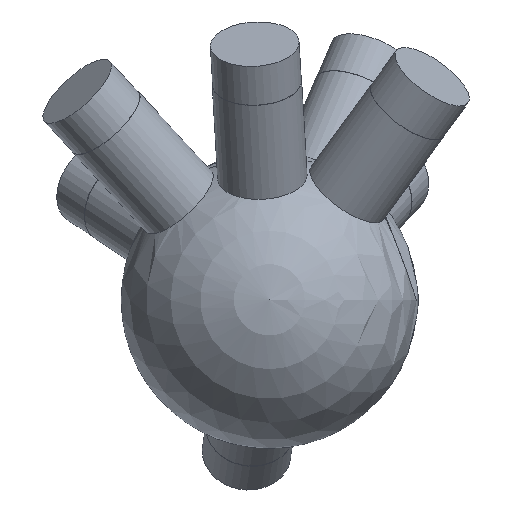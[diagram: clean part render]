
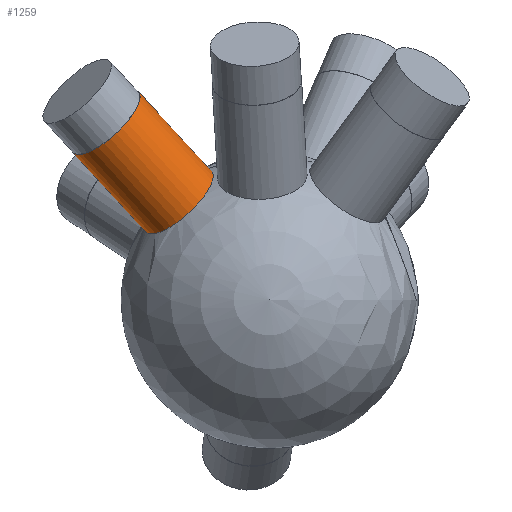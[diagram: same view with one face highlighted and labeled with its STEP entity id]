
A CAD part, top view. The second image highlights one B-rep face of the part: STEP entity #1259.
In plain terms, the highlighted cylindrical face has radius 6 mm (diameter 12 mm), a full revolution.
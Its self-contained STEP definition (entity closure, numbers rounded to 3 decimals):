
#37 = SPHERICAL_SURFACE('',#38,20.);
#38 = AXIS2_PLACEMENT_3D('',#39,#40,#41);
#39 = CARTESIAN_POINT('',(0.,0.,0.));
#40 = DIRECTION('',(0.,0.,1.));
#41 = DIRECTION('',(1.,0.,-0.));
#772 = EDGE_CURVE('',#773,#773,#775,.T.);
#773 = VERTEX_POINT('',#774);
#774 = CARTESIAN_POINT('',(-7.742,17.253,
    6.512));
#775 = SURFACE_CURVE('',#776,(#781,#843),.PCURVE_S1.);
#776 = CIRCLE('',#777,6.);
#777 = AXIS2_PLACEMENT_3D('',#778,#779,#780);
#778 = CARTESIAN_POINT('',(-12.154,13.186,
    6.512));
#779 = DIRECTION('',(-0.637,0.691,0.341));
#780 = DIRECTION('',(-0.735,-0.678,0.)
  );
#781 = PCURVE('',#37,#782);
#782 = DEFINITIONAL_REPRESENTATION('',(#783),#842);
#783 = B_SPLINE_CURVE_WITH_KNOTS('',8,(#784,#785,#786,#787,#788,#789,
    #790,#791,#792,#793,#794,#795,#796,#797,#798,#799,#800,#801,#802,
    #803,#804,#805,#806,#807,#808,#809,#810,#811,#812,#813,#814,#815,
    #816,#817,#818,#819,#820,#821,#822,#823,#824,#825,#826,#827,#828,
    #829,#830,#831,#832,#833,#834,#835,#836,#837,#838,#839,#840,#841),
  .UNSPECIFIED.,.T.,.F.,(9,7,7,7,7,7,7,7,9),(3.142,
    3.927,4.614,5.817,6.719,
    7.395,7.903,8.664,9.425),
  .UNSPECIFIED.);
#784 = CARTESIAN_POINT('',(1.993,0.332));
#785 = CARTESIAN_POINT('',(1.996,0.302));
#786 = CARTESIAN_POINT('',(2.003,0.273));
#787 = CARTESIAN_POINT('',(2.012,0.245));
#788 = CARTESIAN_POINT('',(2.025,0.218));
#789 = CARTESIAN_POINT('',(2.04,0.192));
#790 = CARTESIAN_POINT('',(2.058,0.168));
#791 = CARTESIAN_POINT('',(2.078,0.146));
#792 = CARTESIAN_POINT('',(2.119,0.109));
#793 = CARTESIAN_POINT('',(2.14,0.094));
#794 = CARTESIAN_POINT('',(2.162,0.08));
#795 = CARTESIAN_POINT('',(2.186,0.069));
#796 = CARTESIAN_POINT('',(2.21,0.059));
#797 = CARTESIAN_POINT('',(2.235,0.052));
#798 = CARTESIAN_POINT('',(2.26,0.047));
#799 = CARTESIAN_POINT('',(2.331,0.041));
#800 = CARTESIAN_POINT('',(2.377,0.044));
#801 = CARTESIAN_POINT('',(2.422,0.054));
#802 = CARTESIAN_POINT('',(2.464,0.072));
#803 = CARTESIAN_POINT('',(2.504,0.096));
#804 = CARTESIAN_POINT('',(2.539,0.127));
#805 = CARTESIAN_POINT('',(2.569,0.161));
#806 = CARTESIAN_POINT('',(2.61,0.229));
#807 = CARTESIAN_POINT('',(2.625,0.26));
#808 = CARTESIAN_POINT('',(2.635,0.293));
#809 = CARTESIAN_POINT('',(2.642,0.327));
#810 = CARTESIAN_POINT('',(2.644,0.361));
#811 = CARTESIAN_POINT('',(2.642,0.395));
#812 = CARTESIAN_POINT('',(2.636,0.429));
#813 = CARTESIAN_POINT('',(2.615,0.485));
#814 = CARTESIAN_POINT('',(2.604,0.508));
#815 = CARTESIAN_POINT('',(2.59,0.531));
#816 = CARTESIAN_POINT('',(2.573,0.552));
#817 = CARTESIAN_POINT('',(2.553,0.571));
#818 = CARTESIAN_POINT('',(2.531,0.589));
#819 = CARTESIAN_POINT('',(2.506,0.604));
#820 = CARTESIAN_POINT('',(2.459,0.626));
#821 = CARTESIAN_POINT('',(2.438,0.635));
#822 = CARTESIAN_POINT('',(2.416,0.642));
#823 = CARTESIAN_POINT('',(2.393,0.647));
#824 = CARTESIAN_POINT('',(2.369,0.651));
#825 = CARTESIAN_POINT('',(2.345,0.653));
#826 = CARTESIAN_POINT('',(2.321,0.654));
#827 = CARTESIAN_POINT('',(2.261,0.651));
#828 = CARTESIAN_POINT('',(2.226,0.646));
#829 = CARTESIAN_POINT('',(2.191,0.637));
#830 = CARTESIAN_POINT('',(2.159,0.624));
#831 = CARTESIAN_POINT('',(2.129,0.609));
#832 = CARTESIAN_POINT('',(2.102,0.59));
#833 = CARTESIAN_POINT('',(2.079,0.57));
#834 = CARTESIAN_POINT('',(2.038,0.524));
#835 = CARTESIAN_POINT('',(2.021,0.499));
#836 = CARTESIAN_POINT('',(2.008,0.473));
#837 = CARTESIAN_POINT('',(1.998,0.446));
#838 = CARTESIAN_POINT('',(1.992,0.417));
#839 = CARTESIAN_POINT('',(1.989,0.389));
#840 = CARTESIAN_POINT('',(1.989,0.36));
#841 = CARTESIAN_POINT('',(1.993,0.332));
#842 = ( GEOMETRIC_REPRESENTATION_CONTEXT(2) 
PARAMETRIC_REPRESENTATION_CONTEXT() REPRESENTATION_CONTEXT('2D SPACE',''
  ) );
#843 = PCURVE('',#844,#849);
#844 = CYLINDRICAL_SURFACE('',#845,6.);
#845 = AXIS2_PLACEMENT_3D('',#846,#847,#848);
#846 = CARTESIAN_POINT('',(0.,0.,0.));
#847 = DIRECTION('',(-0.637,0.691,0.341));
#848 = DIRECTION('',(0.735,0.678,0.));
#849 = DEFINITIONAL_REPRESENTATION('',(#850),#854);
#850 = LINE('',#851,#852);
#851 = CARTESIAN_POINT('',(-3.142,19.079));
#852 = VECTOR('',#853,1.);
#853 = DIRECTION('',(1.,0.));
#854 = ( GEOMETRIC_REPRESENTATION_CONTEXT(2) 
PARAMETRIC_REPRESENTATION_CONTEXT() REPRESENTATION_CONTEXT('2D SPACE',''
  ) );
#1259 = ADVANCED_FACE('',(#1260),#844,.T.);
#1260 = FACE_BOUND('',#1261,.T.);
#1261 = EDGE_LOOP('',(#1262,#1285,#1312,#1313));
#1262 = ORIENTED_EDGE('',*,*,#1263,.T.);
#1263 = EDGE_CURVE('',#773,#1264,#1266,.T.);
#1264 = VERTEX_POINT('',#1265);
#1265 = CARTESIAN_POINT('',(-17.535,27.877,
    11.758));
#1266 = SEAM_CURVE('',#1267,(#1271,#1278),.PCURVE_S1.);
#1267 = LINE('',#1268,#1269);
#1268 = CARTESIAN_POINT('',(4.412,4.066,
    0.));
#1269 = VECTOR('',#1270,1.);
#1270 = DIRECTION('',(-0.637,0.691,0.341));
#1271 = PCURVE('',#844,#1272);
#1272 = DEFINITIONAL_REPRESENTATION('',(#1273),#1277);
#1273 = LINE('',#1274,#1275);
#1274 = CARTESIAN_POINT('',(6.283,-0.));
#1275 = VECTOR('',#1276,1.);
#1276 = DIRECTION('',(0.,1.));
#1277 = ( GEOMETRIC_REPRESENTATION_CONTEXT(2) 
PARAMETRIC_REPRESENTATION_CONTEXT() REPRESENTATION_CONTEXT('2D SPACE',''
  ) );
#1278 = PCURVE('',#844,#1279);
#1279 = DEFINITIONAL_REPRESENTATION('',(#1280),#1284);
#1280 = LINE('',#1281,#1282);
#1281 = CARTESIAN_POINT('',(0.,-0.));
#1282 = VECTOR('',#1283,1.);
#1283 = DIRECTION('',(0.,1.));
#1284 = ( GEOMETRIC_REPRESENTATION_CONTEXT(2) 
PARAMETRIC_REPRESENTATION_CONTEXT() REPRESENTATION_CONTEXT('2D SPACE',''
  ) );
#1285 = ORIENTED_EDGE('',*,*,#1286,.F.);
#1286 = EDGE_CURVE('',#1264,#1264,#1287,.T.);
#1287 = SURFACE_CURVE('',#1288,(#1293,#1300),.PCURVE_S1.);
#1288 = CIRCLE('',#1289,6.);
#1289 = AXIS2_PLACEMENT_3D('',#1290,#1291,#1292);
#1290 = CARTESIAN_POINT('',(-21.947,23.811,
    11.758));
#1291 = DIRECTION('',(-0.637,0.691,0.341));
#1292 = DIRECTION('',(0.735,0.678,0.));
#1293 = PCURVE('',#844,#1294);
#1294 = DEFINITIONAL_REPRESENTATION('',(#1295),#1299);
#1295 = LINE('',#1296,#1297);
#1296 = CARTESIAN_POINT('',(0.,34.451));
#1297 = VECTOR('',#1298,1.);
#1298 = DIRECTION('',(1.,0.));
#1299 = ( GEOMETRIC_REPRESENTATION_CONTEXT(2) 
PARAMETRIC_REPRESENTATION_CONTEXT() REPRESENTATION_CONTEXT('2D SPACE',''
  ) );
#1300 = PCURVE('',#1301,#1306);
#1301 = PLANE('',#1302);
#1302 = AXIS2_PLACEMENT_3D('',#1303,#1304,#1305);
#1303 = CARTESIAN_POINT('',(-21.947,23.811,
    11.758));
#1304 = DIRECTION('',(-0.637,0.691,0.341));
#1305 = DIRECTION('',(0.735,0.678,0.)
  );
#1306 = DEFINITIONAL_REPRESENTATION('',(#1307),#1311);
#1307 = CIRCLE('',#1308,6.);
#1308 = AXIS2_PLACEMENT_2D('',#1309,#1310);
#1309 = CARTESIAN_POINT('',(0.,0.));
#1310 = DIRECTION('',(1.,0.));
#1311 = ( GEOMETRIC_REPRESENTATION_CONTEXT(2) 
PARAMETRIC_REPRESENTATION_CONTEXT() REPRESENTATION_CONTEXT('2D SPACE',''
  ) );
#1312 = ORIENTED_EDGE('',*,*,#1263,.F.);
#1313 = ORIENTED_EDGE('',*,*,#772,.T.);
